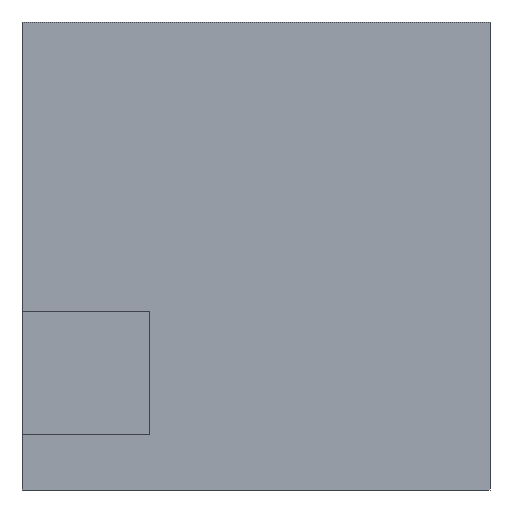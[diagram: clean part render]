
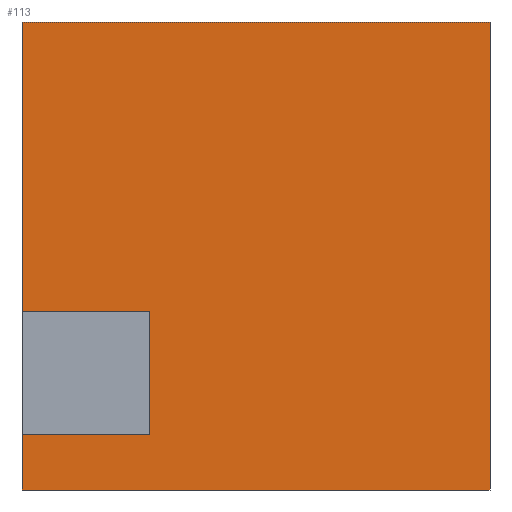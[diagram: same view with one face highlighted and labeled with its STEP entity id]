
A CAD part, left-side view. The second image highlights one B-rep face of the part: STEP entity #113.
In plain terms, the highlighted planar face has unit normal (-1, 0, 0).
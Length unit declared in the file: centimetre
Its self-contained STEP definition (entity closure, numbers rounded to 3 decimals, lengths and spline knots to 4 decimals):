
#4 = CARTESIAN_POINT ( 'NONE',  ( 0., 1000., 1000. ) ) ;
#5 = ORIENTED_EDGE ( 'NONE', *, *, #564, .F. ) ;
#11 = ORIENTED_EDGE ( 'NONE', *, *, #421, .T. ) ;
#13 = CARTESIAN_POINT ( 'NONE',  ( 0., 1000., 0. ) ) ;
#19 = LINE ( 'NONE', #700, #825 ) ;
#24 = CARTESIAN_POINT ( 'NONE',  ( 0., 1000., 0. ) ) ;
#29 = ORIENTED_EDGE ( 'NONE', *, *, #224, .T. ) ;
#33 = EDGE_CURVE ( 'NONE', #175, #426, #19, .T. ) ;
#86 = LINE ( 'NONE', #629, #203 ) ;
#111 = VECTOR ( 'NONE', #284, 100. ) ;
#113 = ADVANCED_FACE ( 'NONE', ( #367 ), #599, .F. ) ;
#136 = CARTESIAN_POINT ( 'NONE',  ( 0., 0., 1000. ) ) ;
#175 = VERTEX_POINT ( 'NONE', #847 ) ;
#200 = EDGE_LOOP ( 'NONE', ( #5, #553, #11, #29, #547, #246, #248, #624 ) ) ;
#203 = VECTOR ( 'NONE', #523, 100. ) ;
#222 = CARTESIAN_POINT ( 'NONE',  ( 0., 1000., 1000. ) ) ;
#224 = EDGE_CURVE ( 'NONE', #710, #500, #707, .T. ) ;
#229 = DIRECTION ( 'NONE',  ( 0., -1., 0. ) ) ;
#246 = ORIENTED_EDGE ( 'NONE', *, *, #686, .F. ) ;
#248 = ORIENTED_EDGE ( 'NONE', *, *, #972, .T. ) ;
#284 = DIRECTION ( 'NONE',  ( 0., -1., 0. ) ) ;
#304 = VERTEX_POINT ( 'NONE', #415 ) ;
#365 = CARTESIAN_POINT ( 'NONE',  ( 0., 726.9881, 118.5902 ) ) ;
#366 = LINE ( 'NONE', #222, #434 ) ;
#367 = FACE_OUTER_BOUND ( 'NONE', #200, .T. ) ;
#388 = VERTEX_POINT ( 'NONE', #403 ) ;
#403 = CARTESIAN_POINT ( 'NONE',  ( 0., 726.9881, 118.5902 ) ) ;
#412 = VECTOR ( 'NONE', #740, 100. ) ;
#415 = CARTESIAN_POINT ( 'NONE',  ( 0., 0., 1000. ) ) ;
#421 = EDGE_CURVE ( 'NONE', #532, #710, #366, .T. ) ;
#426 = VERTEX_POINT ( 'NONE', #958 ) ;
#434 = VECTOR ( 'NONE', #509, 100. ) ;
#443 = DIRECTION ( 'NONE',  ( 0., 1., 0. ) ) ;
#454 = DIRECTION ( 'NONE',  ( 1., 0., 0. ) ) ;
#459 = CARTESIAN_POINT ( 'NONE',  ( 0., 1000., 1000. ) ) ;
#500 = VERTEX_POINT ( 'NONE', #975 ) ;
#509 = DIRECTION ( 'NONE',  ( 0., 0., -1. ) ) ;
#523 = DIRECTION ( 'NONE',  ( 0., 0., -1. ) ) ;
#532 = VERTEX_POINT ( 'NONE', #669 ) ;
#546 = DIRECTION ( 'NONE',  ( 0., -1., 0. ) ) ;
#547 = ORIENTED_EDGE ( 'NONE', *, *, #590, .F. ) ;
#553 = ORIENTED_EDGE ( 'NONE', *, *, #682, .F. ) ;
#559 = VECTOR ( 'NONE', #546, 100. ) ;
#564 = EDGE_CURVE ( 'NONE', #388, #175, #974, .T. ) ;
#590 = EDGE_CURVE ( 'NONE', #304, #500, #820, .T. ) ;
#599 = PLANE ( 'NONE',  #691 ) ;
#616 = CARTESIAN_POINT ( 'NONE',  ( 0., 726.9881, 118.5902 ) ) ;
#624 = ORIENTED_EDGE ( 'NONE', *, *, #33, .F. ) ;
#629 = CARTESIAN_POINT ( 'NONE',  ( 0., 1000., 1000. ) ) ;
#669 = CARTESIAN_POINT ( 'NONE',  ( 0., 1000., 118.5902 ) ) ;
#682 = EDGE_CURVE ( 'NONE', #532, #388, #696, .T. ) ;
#686 = EDGE_CURVE ( 'NONE', #836, #304, #853, .T. ) ;
#691 = AXIS2_PLACEMENT_3D ( 'NONE', #776, #454, #924 ) ;
#696 = LINE ( 'NONE', #616, #111 ) ;
#700 = CARTESIAN_POINT ( 'NONE',  ( 0., 726.9881, 382.0823 ) ) ;
#707 = LINE ( 'NONE', #13, #809 ) ;
#710 = VERTEX_POINT ( 'NONE', #24 ) ;
#740 = DIRECTION ( 'NONE',  ( 0., 0., -1. ) ) ;
#776 = CARTESIAN_POINT ( 'NONE',  ( 0., 1000., 1000. ) ) ;
#809 = VECTOR ( 'NONE', #229, 100. ) ;
#820 = LINE ( 'NONE', #136, #412 ) ;
#825 = VECTOR ( 'NONE', #443, 100. ) ;
#836 = VERTEX_POINT ( 'NONE', #459 ) ;
#846 = VECTOR ( 'NONE', #985, 100. ) ;
#847 = CARTESIAN_POINT ( 'NONE',  ( 0., 726.9881, 382.0823 ) ) ;
#853 = LINE ( 'NONE', #4, #559 ) ;
#924 = DIRECTION ( 'NONE',  ( 0., 0., -1. ) ) ;
#958 = CARTESIAN_POINT ( 'NONE',  ( 0., 1000., 382.0823 ) ) ;
#972 = EDGE_CURVE ( 'NONE', #836, #426, #86, .T. ) ;
#974 = LINE ( 'NONE', #365, #846 ) ;
#975 = CARTESIAN_POINT ( 'NONE',  ( 0., 0., 0. ) ) ;
#985 = DIRECTION ( 'NONE',  ( 0., 0., 1. ) ) ;
